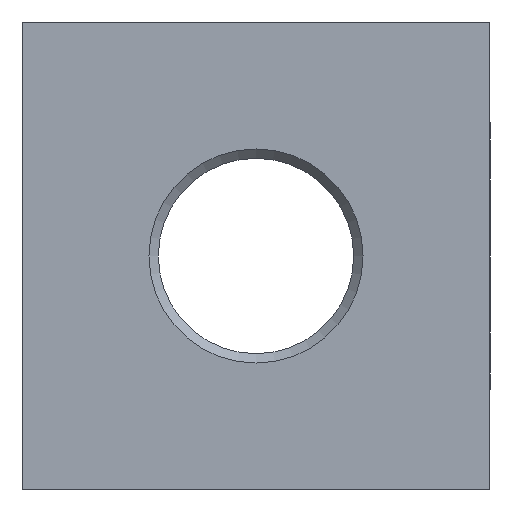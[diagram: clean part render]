
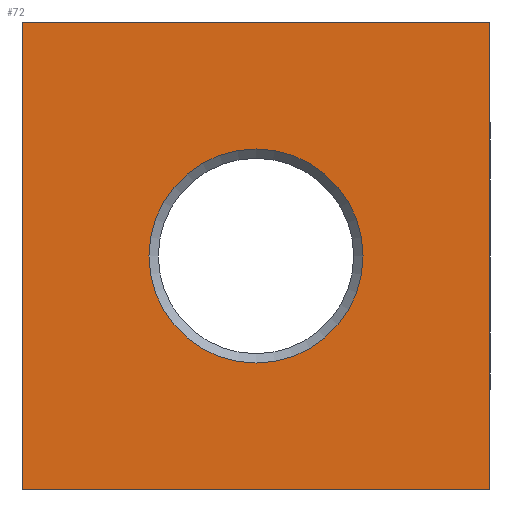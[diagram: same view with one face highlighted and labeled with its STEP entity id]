
A CAD part, left-side view. The second image highlights one B-rep face of the part: STEP entity #72.
In plain terms, the highlighted planar face has unit normal (-1, 0, 0).
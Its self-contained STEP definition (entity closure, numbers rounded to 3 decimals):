
#72 = ADVANCED_FACE( '', ( #152, #153 ), #154, .F. );
#152 = FACE_BOUND( '', #233, .T. );
#153 = FACE_OUTER_BOUND( '', #234, .T. );
#154 = PLANE( '', #235 );
#233 = EDGE_LOOP( '', ( #372 ) );
#234 = EDGE_LOOP( '', ( #373, #374, #375, #376 ) );
#235 = AXIS2_PLACEMENT_3D( '', #377, #378, #379 );
#372 = ORIENTED_EDGE( '', *, *, #459, .T. );
#373 = ORIENTED_EDGE( '', *, *, #450, .F. );
#374 = ORIENTED_EDGE( '', *, *, #472, .F. );
#375 = ORIENTED_EDGE( '', *, *, #465, .F. );
#376 = ORIENTED_EDGE( '', *, *, #455, .F. );
#377 = CARTESIAN_POINT( '', ( 0., -50., -50. ) );
#378 = DIRECTION( '', ( 1., 0., 0. ) );
#379 = DIRECTION( '', ( 0., 1., 0. ) );
#450 = EDGE_CURVE( '', #532, #528, #534, .T. );
#455 = EDGE_CURVE( '', #528, #540, #541, .T. );
#459 = EDGE_CURVE( '', #546, #546, #547, .T. );
#465 = EDGE_CURVE( '', #540, #555, #556, .T. );
#472 = EDGE_CURVE( '', #555, #532, #563, .T. );
#528 = VERTEX_POINT( '', #629 );
#532 = VERTEX_POINT( '', #634 );
#534 = LINE( '', #637, #638 );
#540 = VERTEX_POINT( '', #646 );
#541 = LINE( '', #647, #648 );
#546 = VERTEX_POINT( '', #654 );
#547 = CIRCLE( '', #655, 22.876 );
#555 = VERTEX_POINT( '', #665 );
#556 = LINE( '', #666, #667 );
#563 = LINE( '', #676, #677 );
#629 = CARTESIAN_POINT( '', ( 0., -50., -50. ) );
#634 = CARTESIAN_POINT( '', ( 0., -50., 50. ) );
#637 = CARTESIAN_POINT( '', ( 0., -50., 50. ) );
#638 = VECTOR( '', #735, 1000. );
#646 = CARTESIAN_POINT( '', ( 0., 50., -50. ) );
#647 = CARTESIAN_POINT( '', ( 0., -50., -50. ) );
#648 = VECTOR( '', #741, 1000. );
#654 = CARTESIAN_POINT( '', ( 0., 22.876, 0. ) );
#655 = AXIS2_PLACEMENT_3D( '', #746, #747, #748 );
#665 = CARTESIAN_POINT( '', ( 0., 50., 50. ) );
#666 = CARTESIAN_POINT( '', ( 0., 50., -50. ) );
#667 = VECTOR( '', #754, 1000. );
#676 = CARTESIAN_POINT( '', ( 0., 50., 50. ) );
#677 = VECTOR( '', #760, 1000. );
#735 = DIRECTION( '', ( 0., 0., -1. ) );
#741 = DIRECTION( '', ( 0., 1., 0. ) );
#746 = CARTESIAN_POINT( '', ( 0., 0., 0. ) );
#747 = DIRECTION( '', ( 1., 0., 0. ) );
#748 = DIRECTION( '', ( 0., 1., 0. ) );
#754 = DIRECTION( '', ( 0., 0., 1. ) );
#760 = DIRECTION( '', ( 0., -1., 0. ) );
